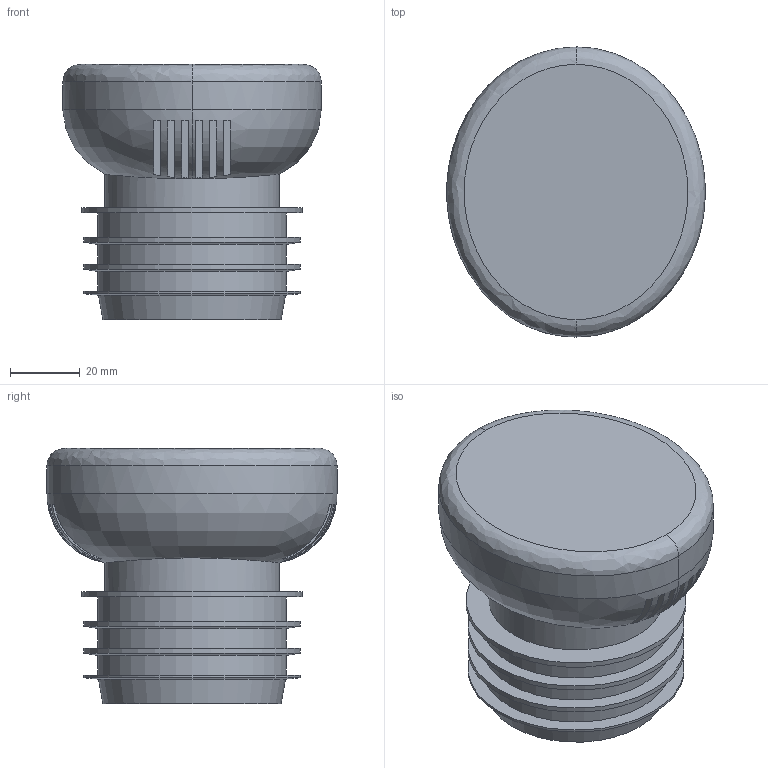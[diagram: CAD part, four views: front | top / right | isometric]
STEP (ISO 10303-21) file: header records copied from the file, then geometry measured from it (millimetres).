
FILE_DESCRIPTION(/* description */ (''),/* implementation_level */ '2;1');
FILE_NAME(/* name */ '359900.stp',/* time_stamp */ '2023-09-22T14:58:21+02:00',/* author */ ('JANAN'),/* organization */ (''),/* preprocessor_version */ 'ST-DEVELOPER v19.2',/* originating_system */ 'Autodesk Inventor 2023',/* authorisation */ '');
FILE_SCHEMA (('AUTOMOTIVE_DESIGN { 1 0 10303 214 3 1 1 }'));
Length unit declared in the file: millimetre
Products named in the file (1): tmp66A0.tmp
Bounding box: 73.97 x 83 x 73 mm (x, y, z)
Volume: 227214.7 mm3; surface area: 42001.9 mm2
Topology: 2 solids, 2 shells, 76 faces, 158 edges, 102 vertices
Faces by surface type: plane 56, cylinder 9, bspline 6, cone 5
Full cylindrical faces by diameter (mm): 50 x2, 54 x3, 62 x3, 63 x1
Entity records: 3605 total; most frequent: CARTESIAN_POINT 1943, ORIENTED_EDGE 316, DIRECTION 284, EDGE_CURVE 158, AXIS2_PLACEMENT_3D 104, VERTEX_POINT 102, EDGE_LOOP 94, STYLED_ITEM 78
